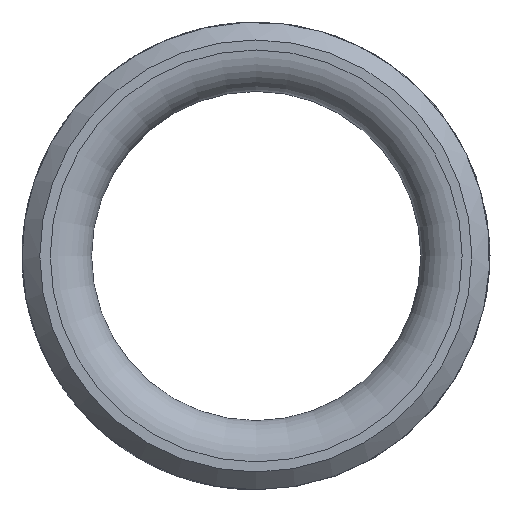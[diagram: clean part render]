
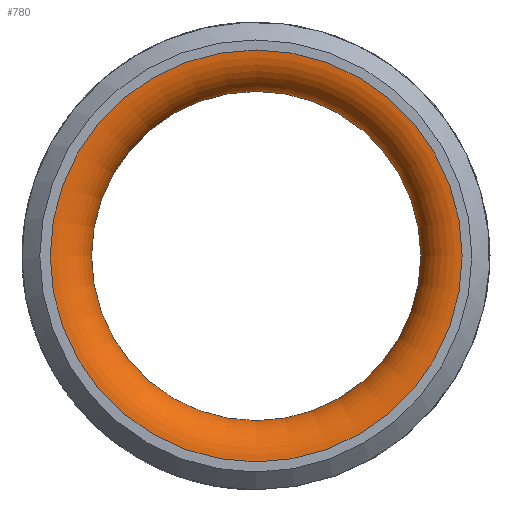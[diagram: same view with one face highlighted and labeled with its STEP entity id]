
A CAD part, top view. The second image highlights one B-rep face of the part: STEP entity #780.
In plain terms, the highlighted toroidal (fillet/blend) face has major radius 42.938 mm and minor radius 8.75 mm.
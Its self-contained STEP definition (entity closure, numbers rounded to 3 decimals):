
#21=TOROIDAL_SURFACE('',#850,42.938,8.75);
#66=FACE_OUTER_BOUND('',#108,.T.);
#108=EDGE_LOOP('',(#610,#611,#612,#613));
#160=CIRCLE('',#851,34.32);
#161=CIRCLE('',#852,8.75);
#162=CIRCLE('',#853,42.938);
#386=VERTEX_POINT('',#1286);
#387=VERTEX_POINT('',#1288);
#474=EDGE_CURVE('',#386,#386,#160,.T.);
#475=EDGE_CURVE('',#386,#387,#161,.T.);
#476=EDGE_CURVE('',#387,#387,#162,.T.);
#610=ORIENTED_EDGE('',*,*,#474,.F.);
#611=ORIENTED_EDGE('',*,*,#475,.T.);
#612=ORIENTED_EDGE('',*,*,#476,.T.);
#613=ORIENTED_EDGE('',*,*,#475,.F.);
#780=ADVANCED_FACE('',(#66),#21,.T.);
#850=AXIS2_PLACEMENT_3D('',#1285,#1004,#1005);
#851=AXIS2_PLACEMENT_3D('',#1287,#1006,#1007);
#852=AXIS2_PLACEMENT_3D('',#1289,#1008,#1009);
#853=AXIS2_PLACEMENT_3D('',#1290,#1010,#1011);
#1004=DIRECTION('center_axis',(0.,0.,
1.));
#1005=DIRECTION('ref_axis',(-1.,0.,0.));
#1006=DIRECTION('center_axis',(0.,0.,
1.));
#1007=DIRECTION('ref_axis',(1.,0.,0.));
#1008=DIRECTION('center_axis',(0.,1.,0.));
#1009=DIRECTION('ref_axis',(1.,0.,0.));
#1010=DIRECTION('center_axis',(0.,0.,
1.));
#1011=DIRECTION('ref_axis',(-1.,0.,0.));
#1285=CARTESIAN_POINT('Origin',(14.275,-7.506,-7.316));
#1286=CARTESIAN_POINT('',(48.595,-7.506,-5.802));
#1287=CARTESIAN_POINT('Origin',(14.275,-7.506,-5.802));
#1288=CARTESIAN_POINT('',(57.213,-7.506,1.434));
#1289=CARTESIAN_POINT('Origin',(57.213,-7.506,-7.316));
#1290=CARTESIAN_POINT('Origin',(14.275,-7.506,1.434));
